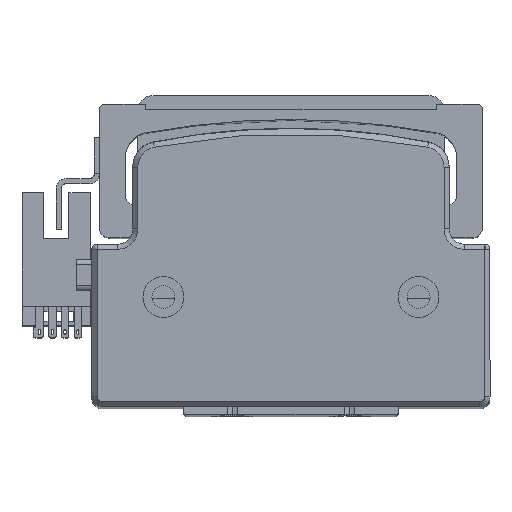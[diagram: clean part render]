
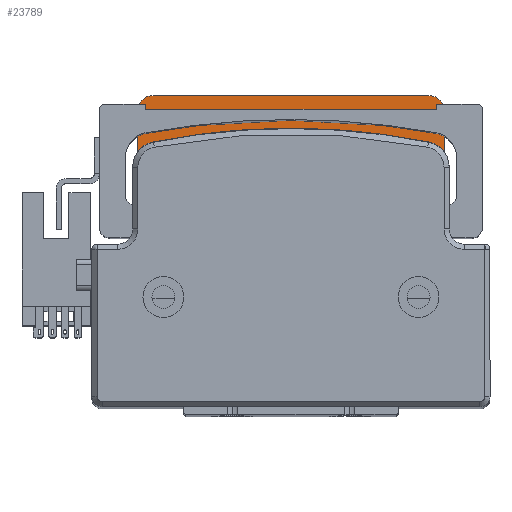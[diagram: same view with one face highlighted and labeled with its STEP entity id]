
A CAD part, top view. The second image highlights one B-rep face of the part: STEP entity #23789.
In plain terms, the highlighted planar face has unit normal (0, 0, 1) as drawn and (0, 0, -1) by its records, which use the part's own axes.
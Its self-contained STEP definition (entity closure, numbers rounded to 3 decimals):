
#67 = CARTESIAN_POINT ( 'NONE',  ( -30., -30., 44. ) ) ;
#505 = AXIS2_PLACEMENT_3D ( 'NONE', #40671, #20053, #44150 ) ;
#690 = VERTEX_POINT ( 'NONE', #24833 ) ;
#721 = ORIENTED_EDGE ( 'NONE', *, *, #5323, .T. ) ;
#754 = DIRECTION ( 'NONE',  ( 1., 0., 0. ) ) ;
#772 = DIRECTION ( 'NONE',  ( 0., 0., -1. ) ) ;
#836 = EDGE_CURVE ( 'NONE', #20439, #36130, #31848, .T. ) ;
#1512 = DIRECTION ( 'NONE',  ( 0., 1., 0. ) ) ;
#1524 = EDGE_LOOP ( 'NONE', ( #16907, #40395, #13944, #30693, #14739, #721, #27855, #36692, #13645, #18256, #25357, #15788 ) ) ;
#1549 = DIRECTION ( 'NONE',  ( 1., 0., 0. ) ) ;
#1782 = CARTESIAN_POINT ( 'NONE',  ( 27., 30., 44. ) ) ;
#1902 = DIRECTION ( 'NONE',  ( 0., 0., -1. ) ) ;
#2076 = CARTESIAN_POINT ( 'NONE',  ( -27., 17., 44. ) ) ;
#2721 = LINE ( 'NONE', #39445, #10830 ) ;
#3952 = VECTOR ( 'NONE', #1512, 1000. ) ;
#4017 = AXIS2_PLACEMENT_3D ( 'NONE', #20058, #44154, #23559 ) ;
#4053 = CARTESIAN_POINT ( 'NONE',  ( -26.399, 24.749, 44. ) ) ;
#4334 = CARTESIAN_POINT ( 'NONE',  ( 19., 30., 44. ) ) ;
#4648 = CARTESIAN_POINT ( 'NONE',  ( 26.399, 24.749, 44. ) ) ;
#4736 = EDGE_LOOP ( 'NONE', ( #18223, #41685 ) ) ;
#5069 = LINE ( 'NONE', #42884, #3952 ) ;
#5323 = EDGE_CURVE ( 'NONE', #11298, #37474, #30678, .T. ) ;
#5550 = VECTOR ( 'NONE', #35484, 1000. ) ;
#5735 = VERTEX_POINT ( 'NONE', #8011 ) ;
#5832 = CIRCLE ( 'NONE', #16140, 19. ) ;
#5933 = CIRCLE ( 'NONE', #505, 3. ) ;
#6332 = DIRECTION ( 'NONE',  ( 1., 0., 0. ) ) ;
#7007 = DIRECTION ( 'NONE',  ( 0., 0., 1. ) ) ;
#7550 = ORIENTED_EDGE ( 'NONE', *, *, #38611, .F. ) ;
#8011 = CARTESIAN_POINT ( 'NONE',  ( -19., 0., 44. ) ) ;
#8077 = EDGE_CURVE ( 'NONE', #20439, #39460, #30589, .T. ) ;
#8729 = AXIS2_PLACEMENT_3D ( 'NONE', #34904, #14212, #38364 ) ;
#9076 = CARTESIAN_POINT ( 'NONE',  ( 19., 0., 44. ) ) ;
#9234 = CIRCLE ( 'NONE', #8729, 1.65 ) ;
#9647 = DIRECTION ( 'NONE',  ( 0., 0., 1. ) ) ;
#10021 = EDGE_CURVE ( 'NONE', #43062, #5735, #5832, .T. ) ;
#10190 = CARTESIAN_POINT ( 'NONE',  ( -30., 27., 44. ) ) ;
#10784 = CARTESIAN_POINT ( 'NONE',  ( -19., 17., 44. ) ) ;
#10830 = VECTOR ( 'NONE', #1549, 1000. ) ;
#10971 = VERTEX_POINT ( 'NONE', #4053 ) ;
#11298 = VERTEX_POINT ( 'NONE', #12974 ) ;
#11710 = CARTESIAN_POINT ( 'NONE',  ( 24.749, 24.749, 44. ) ) ;
#11733 = EDGE_CURVE ( 'NONE', #37153, #43062, #14702, .T. ) ;
#12135 = CARTESIAN_POINT ( 'NONE',  ( 27., 17., 44. ) ) ;
#12143 = CARTESIAN_POINT ( 'NONE',  ( 27., 14., 44. ) ) ;
#12249 = CARTESIAN_POINT ( 'NONE',  ( -19., 30., 44. ) ) ;
#12430 = EDGE_CURVE ( 'NONE', #28090, #39460, #24400, .T. ) ;
#12806 = CARTESIAN_POINT ( 'NONE',  ( 30., 27., 44. ) ) ;
#12945 = CIRCLE ( 'NONE', #29954, 3. ) ;
#12974 = CARTESIAN_POINT ( 'NONE',  ( -27., 30., 44. ) ) ;
#13140 = CARTESIAN_POINT ( 'NONE',  ( 19., 30., 44. ) ) ;
#13645 = ORIENTED_EDGE ( 'NONE', *, *, #33883, .T. ) ;
#13944 = ORIENTED_EDGE ( 'NONE', *, *, #8077, .T. ) ;
#14212 = DIRECTION ( 'NONE',  ( 0., 0., -1. ) ) ;
#14531 = EDGE_CURVE ( 'NONE', #37474, #16820, #23329, .T. ) ;
#14639 = EDGE_LOOP ( 'NONE', ( #7550, #17282 ) ) ;
#14702 = LINE ( 'NONE', #4334, #5550 ) ;
#14739 = ORIENTED_EDGE ( 'NONE', *, *, #44344, .T. ) ;
#14899 = AXIS2_PLACEMENT_3D ( 'NONE', #21525, #772, #25006 ) ;
#15168 = DIRECTION ( 'NONE',  ( 1., 0., 0. ) ) ;
#15430 = CIRCLE ( 'NONE', #35362, 1.65 ) ;
#15618 = DIRECTION ( 'NONE',  ( -1., 0., 0. ) ) ;
#15656 = CARTESIAN_POINT ( 'NONE',  ( 19., -30., 44. ) ) ;
#15788 = ORIENTED_EDGE ( 'NONE', *, *, #10021, .T. ) ;
#16140 = AXIS2_PLACEMENT_3D ( 'NONE', #30325, #9647, #33795 ) ;
#16372 = FACE_BOUND ( 'NONE', #14639, .T. ) ;
#16820 = VERTEX_POINT ( 'NONE', #12806 ) ;
#16907 = ORIENTED_EDGE ( 'NONE', *, *, #34467, .T. ) ;
#16914 = AXIS2_PLACEMENT_3D ( 'NONE', #15656, #1902, #26177 ) ;
#17202 = CARTESIAN_POINT ( 'NONE',  ( 19., 17., 44. ) ) ;
#17282 = ORIENTED_EDGE ( 'NONE', *, *, #24611, .F. ) ;
#17315 = CIRCLE ( 'NONE', #14899, 1.65 ) ;
#18223 = ORIENTED_EDGE ( 'NONE', *, *, #27797, .F. ) ;
#18256 = ORIENTED_EDGE ( 'NONE', *, *, #42336, .F. ) ;
#18631 = CARTESIAN_POINT ( 'NONE',  ( -39.764, 17., 44. ) ) ;
#18924 = EDGE_CURVE ( 'NONE', #10971, #32727, #21058, .T. ) ;
#19692 = VERTEX_POINT ( 'NONE', #22287 ) ;
#20053 = DIRECTION ( 'NONE',  ( 0., 0., -1. ) ) ;
#20058 = CARTESIAN_POINT ( 'NONE',  ( -24.749, 24.749, 44. ) ) ;
#20439 = VERTEX_POINT ( 'NONE', #2076 ) ;
#20792 = DIRECTION ( 'NONE',  ( 0., -1., 0. ) ) ;
#21049 = VECTOR ( 'NONE', #36427, 1000. ) ;
#21058 = CIRCLE ( 'NONE', #4017, 1.65 ) ;
#21498 = DIRECTION ( 'NONE',  ( 0., 0., -1. ) ) ;
#21525 = CARTESIAN_POINT ( 'NONE',  ( 24.749, 24.749, 44. ) ) ;
#21529 = VECTOR ( 'NONE', #6332, 1000. ) ;
#22287 = CARTESIAN_POINT ( 'NONE',  ( 23.099, 24.749, 44. ) ) ;
#23329 = CIRCLE ( 'NONE', #33969, 3. ) ;
#23559 = DIRECTION ( 'NONE',  ( 1., 0., 0. ) ) ;
#23789 = ADVANCED_FACE ( 'NONE', ( #43926, #34705, #16372 ), #32884, .T. ) ;
#24400 = LINE ( 'NONE', #67, #42709 ) ;
#24611 = EDGE_CURVE ( 'NONE', #19692, #41222, #17315, .T. ) ;
#24833 = CARTESIAN_POINT ( 'NONE',  ( 30., 14., 44. ) ) ;
#25006 = DIRECTION ( 'NONE',  ( 1., 0., 0. ) ) ;
#25357 = ORIENTED_EDGE ( 'NONE', *, *, #11733, .T. ) ;
#26177 = DIRECTION ( 'NONE',  ( -1., 0., 0. ) ) ;
#27775 = CARTESIAN_POINT ( 'NONE',  ( -27., 14., 44. ) ) ;
#27797 = EDGE_CURVE ( 'NONE', #32727, #10971, #9234, .T. ) ;
#27855 = ORIENTED_EDGE ( 'NONE', *, *, #14531, .T. ) ;
#27976 = CARTESIAN_POINT ( 'NONE',  ( -30., 14., 44. ) ) ;
#28090 = VERTEX_POINT ( 'NONE', #10190 ) ;
#29954 = AXIS2_PLACEMENT_3D ( 'NONE', #12143, #36330, #15618 ) ;
#30170 = VERTEX_POINT ( 'NONE', #12135 ) ;
#30325 = CARTESIAN_POINT ( 'NONE',  ( 0., 0., 44. ) ) ;
#30589 = CIRCLE ( 'NONE', #40641, 3. ) ;
#30678 = LINE ( 'NONE', #13140, #21529 ) ;
#30693 = ORIENTED_EDGE ( 'NONE', *, *, #12430, .F. ) ;
#30832 = CARTESIAN_POINT ( 'NONE',  ( -23.099, 24.749, 44. ) ) ;
#31192 = DIRECTION ( 'NONE',  ( -1., 0., 0. ) ) ;
#31848 = LINE ( 'NONE', #18631, #39976 ) ;
#32727 = VERTEX_POINT ( 'NONE', #30832 ) ;
#32884 = PLANE ( 'NONE',  #16914 ) ;
#33795 = DIRECTION ( 'NONE',  ( -1., 0., 0. ) ) ;
#33883 = EDGE_CURVE ( 'NONE', #690, #30170, #12945, .T. ) ;
#33969 = AXIS2_PLACEMENT_3D ( 'NONE', #42100, #21498, #754 ) ;
#34467 = EDGE_CURVE ( 'NONE', #5735, #36130, #40478, .T. ) ;
#34705 = FACE_BOUND ( 'NONE', #4736, .T. ) ;
#34904 = CARTESIAN_POINT ( 'NONE',  ( -24.749, 24.749, 44. ) ) ;
#35362 = AXIS2_PLACEMENT_3D ( 'NONE', #11710, #35887, #15168 ) ;
#35484 = DIRECTION ( 'NONE',  ( 0., -1., 0. ) ) ;
#35887 = DIRECTION ( 'NONE',  ( 0., 0., -1. ) ) ;
#36130 = VERTEX_POINT ( 'NONE', #10784 ) ;
#36330 = DIRECTION ( 'NONE',  ( 0., 0., 1. ) ) ;
#36427 = DIRECTION ( 'NONE',  ( 0., 1., 0. ) ) ;
#36692 = ORIENTED_EDGE ( 'NONE', *, *, #41303, .F. ) ;
#37153 = VERTEX_POINT ( 'NONE', #17202 ) ;
#37474 = VERTEX_POINT ( 'NONE', #1782 ) ;
#38364 = DIRECTION ( 'NONE',  ( 1., 0., 0. ) ) ;
#38611 = EDGE_CURVE ( 'NONE', #41222, #19692, #15430, .T. ) ;
#39250 = DIRECTION ( 'NONE',  ( 1., 0., 0. ) ) ;
#39445 = CARTESIAN_POINT ( 'NONE',  ( -39.764, 17., 44. ) ) ;
#39460 = VERTEX_POINT ( 'NONE', #27976 ) ;
#39976 = VECTOR ( 'NONE', #39250, 1000. ) ;
#40395 = ORIENTED_EDGE ( 'NONE', *, *, #836, .F. ) ;
#40478 = LINE ( 'NONE', #12249, #21049 ) ;
#40641 = AXIS2_PLACEMENT_3D ( 'NONE', #27775, #7007, #31192 ) ;
#40671 = CARTESIAN_POINT ( 'NONE',  ( -27., 27., 44. ) ) ;
#41222 = VERTEX_POINT ( 'NONE', #4648 ) ;
#41303 = EDGE_CURVE ( 'NONE', #690, #16820, #5069, .T. ) ;
#41685 = ORIENTED_EDGE ( 'NONE', *, *, #18924, .F. ) ;
#42100 = CARTESIAN_POINT ( 'NONE',  ( 27., 27., 44. ) ) ;
#42336 = EDGE_CURVE ( 'NONE', #37153, #30170, #2721, .T. ) ;
#42709 = VECTOR ( 'NONE', #20792, 1000. ) ;
#42884 = CARTESIAN_POINT ( 'NONE',  ( 30., -30., 44. ) ) ;
#43062 = VERTEX_POINT ( 'NONE', #9076 ) ;
#43926 = FACE_OUTER_BOUND ( 'NONE', #1524, .T. ) ;
#44150 = DIRECTION ( 'NONE',  ( 1., 0., 0. ) ) ;
#44154 = DIRECTION ( 'NONE',  ( 0., 0., -1. ) ) ;
#44344 = EDGE_CURVE ( 'NONE', #28090, #11298, #5933, .T. ) ;
